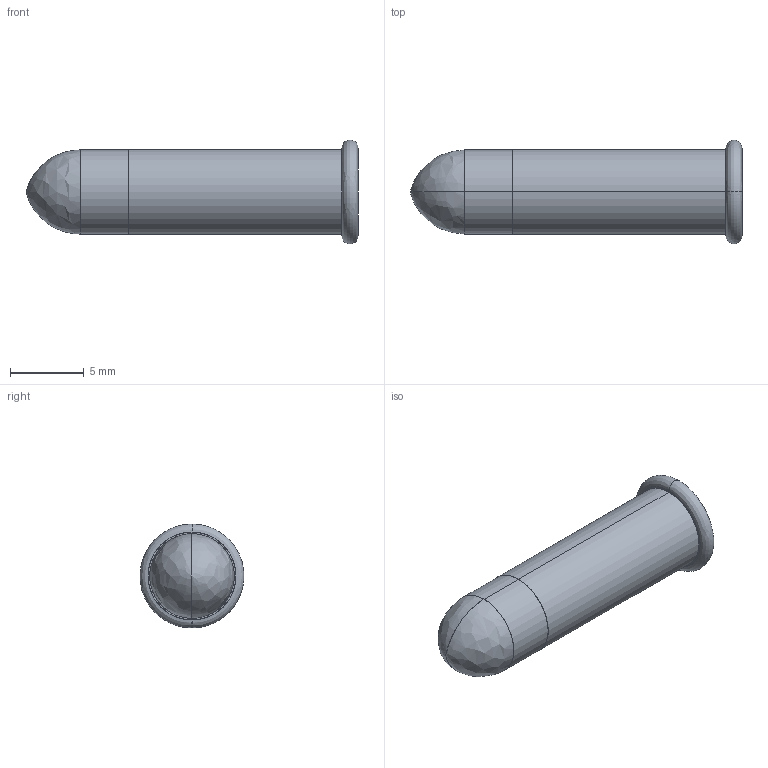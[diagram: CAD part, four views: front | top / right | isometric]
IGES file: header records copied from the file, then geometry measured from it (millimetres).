
Start section: SolidWorks IGES file using analytic representation for surfaces
Global section: file name: C:\Users\Shane\Desktop\22LR.IGS; native system: SolidWorks 2011; preprocessor: SolidWorks 2011; author: Shane; date: 120428.213616; units: inch
Bounding box: 22.56 x 7.06 x 7.06 mm (x, y, z)
Surface area: 785.1 mm2 (no closed solid volume)
Topology: 0 solids, 0 shells, 18 faces, 336 edges, 334 vertices
Faces by surface type: bspline 10, revolution 8
